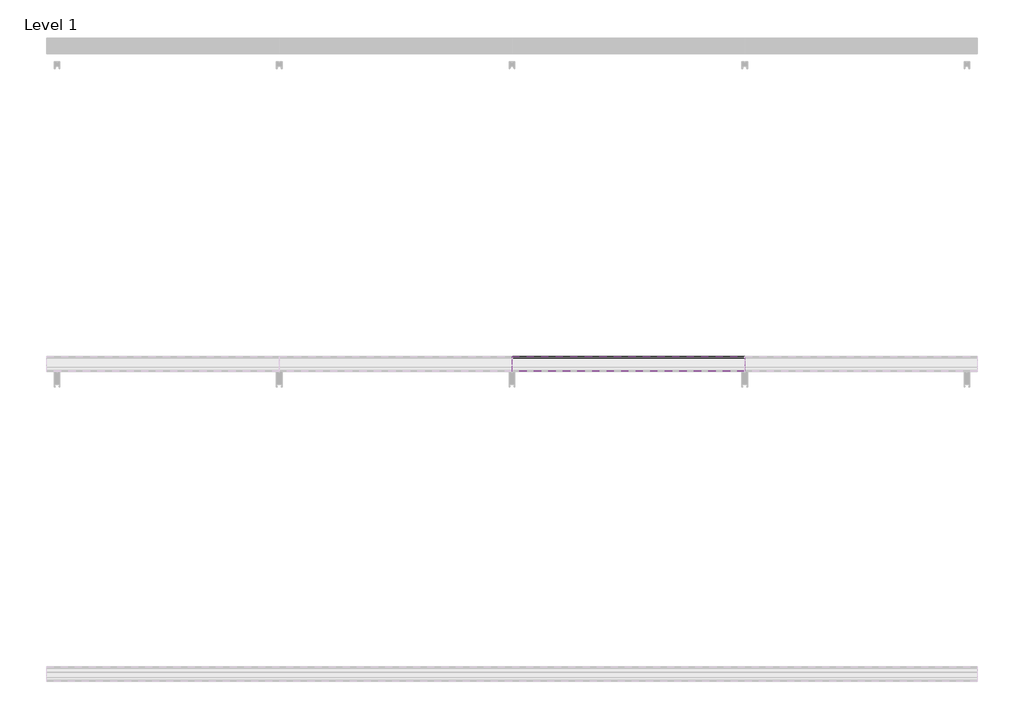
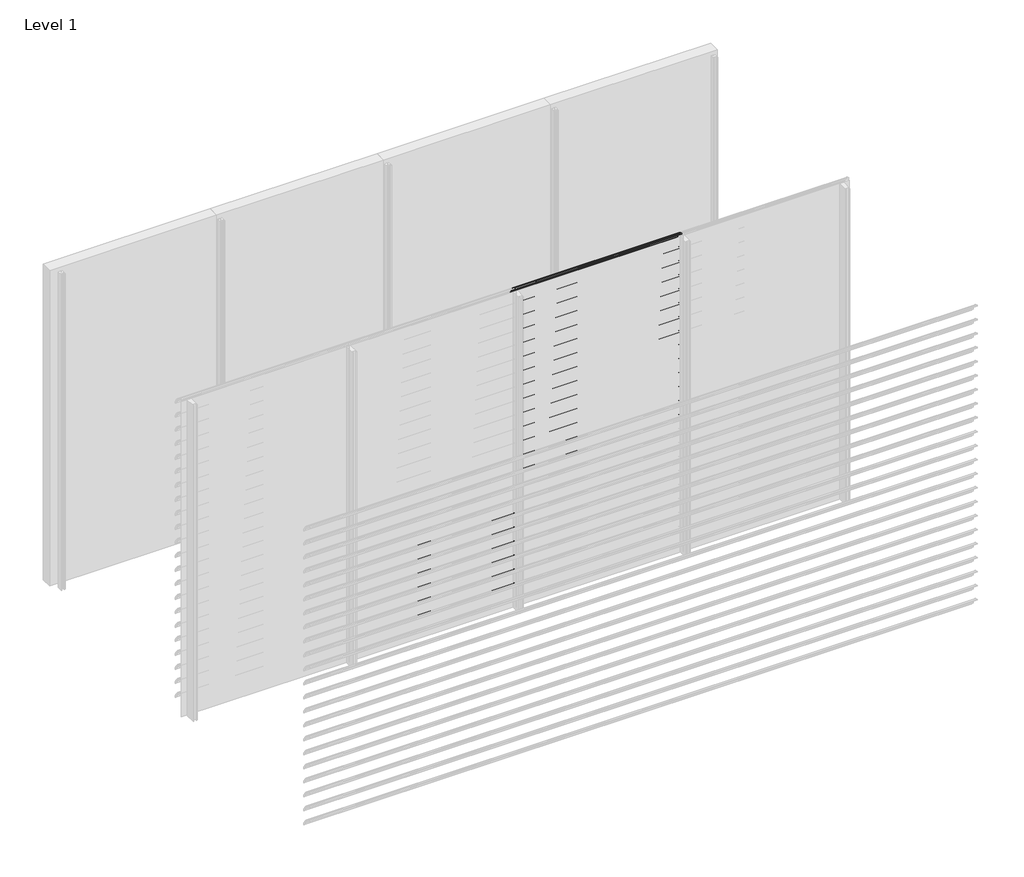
# One storey, part 39 of 57: 20 proxies.
"""IFC4 building model written with IfcOpenShell, lengths in millimetres."""

from ifc_helpers import new_model, si_unit, point, frame, frame_2d, origin, place, context, project, spatial, polyline, circle_curve, trimmed, segment, composite_curve, outline, extrude, element, save

model = new_model("IFC4")

# Units and contexts
model_context = context("Model", 3, world=origin())
ifc_project = project(units=[si_unit("LENGTHUNIT", "METRE", prefix="MILLI")], contexts=[model_context])

# Site, building, storey
site = spatial("IfcSite", under=ifc_project)
building = spatial("IfcBuilding", under=site)
storey = spatial("IfcBuildingStorey", under=building, Name="Level 1", Elevation=0.0)

# Proxies
placement = place(None, origin())
element("IfcBuildingElementProxy", 1, Name="Wall Sweeps", at=placement, inside=storey, context=model_context, shape_type="SweptSolid", body=[
    extrude(outline(composite_curve([segment(trimmed(circle_curve(frame_2d((-17993.7822526, 888.4913792)), 4.2177474), [point((-17989.6985606, 889.5462976))], [point((-17993.7822526, 892.7091266))], False, "CARTESIAN"), True, "CONTINUOUS"), segment(trimmed(circle_curve(frame_2d((-18018.7150834, 790.2536312)), 105.4456002), [point((-17993.7822526, 892.7091266))], [point((-17971.7914298, 884.6832099))], False, "CARTESIAN"), True, "CONTINUOUS"), segment(trimmed(circle_curve(frame_2d((-18061.7199745, 736.0352476)), 173.7335887), [point((-17971.7914298, 884.6832099))], [point((-17913.0720121, 825.9637922))], False, "CARTESIAN"), True, "CONTINUOUS"), segment(trimmed(circle_curve(frame_2d((-18004.9297178, 774.1860314)), 105.4456002), [point((-17913.0720121, 825.9637922))], [point((-17903.6249616, 803.4455765))], False, "CARTESIAN"), True, "CONTINUOUS"), segment(trimmed(circle_curve(frame_2d((-17907.809737, 802.3307305)), 4.3307305), [point((-17903.6249616, 803.4455765))], [point((-17909.0769196, 798.189538))], False, "CARTESIAN"), True, "CONTINUOUS"), segment(polyline([(-17909.0769196, 798.189538), (-17934.7401984, 822.9722783)]), True, "CONTINUOUS"), segment(trimmed(circle_curve(frame_2d((-17931.3879574, 825.2977626)), 4.079877), [point((-17934.7401984, 822.9722783))], [point((-17930.7310597, 829.3244091))], False, "CARTESIAN"), True, "CONTINUOUS"), segment(trimmed(circle_curve(frame_2d((-18014.6665585, 807.2544323)), 86.7885467), [point((-17930.7310597, 829.3244091))], [point((-17942.3028351, 855.1683485))], True, "CARTESIAN"), True, "CONTINUOUS"), segment(polyline([(-17942.3028351, 855.1683485), (-17940.7230099, 857.9046861)]), True, "CONTINUOUS"), segment(trimmed(circle_curve(frame_2d((-18061.7199745, 736.0352476)), 171.7335887), [point((-17940.7230099, 857.9046861))], [point((-17972.7555872, 882.9289618))], True, "CARTESIAN"), True, "CONTINUOUS"), segment(trimmed(circle_curve(frame_2d((-18018.7150834, 790.2536312)), 103.4456002), [point((-17972.7555872, 882.9289618))], [point((-17989.6985606, 889.5462976))], True, "CARTESIAN"), True, "CONTINUOUS")], self_intersect=False)), frame((1500.0, 0.0, 0.0), z_axis=(1.0, 0.0, 0.0), x_axis=(0.0, 1.0, 0.0)), (0.0, 0.0, 1.0), 1500.0),
])
element("IfcBuildingElementProxy", 2, Name="Wall Sweeps", at=placement, inside=storey, context=model_context, shape_type="SweptSolid", body=[
    extrude(outline(composite_curve([segment(trimmed(circle_curve(frame_2d((-17993.7822526, 755.4913792)), 4.2177474), [point((-17989.6985606, 756.5462976))], [point((-17993.7822526, 759.7091266))], False, "CARTESIAN"), True, "CONTINUOUS"), segment(trimmed(circle_curve(frame_2d((-18018.7150834, 657.2536312)), 105.4456002), [point((-17993.7822526, 759.7091266))], [point((-17971.7914298, 751.6832099))], False, "CARTESIAN"), True, "CONTINUOUS"), segment(trimmed(circle_curve(frame_2d((-18061.7199745, 603.0352476)), 173.7335887), [point((-17971.7914298, 751.6832099))], [point((-17913.0720121, 692.9637922))], False, "CARTESIAN"), True, "CONTINUOUS"), segment(trimmed(circle_curve(frame_2d((-18004.9297178, 641.1860314)), 105.4456002), [point((-17913.0720121, 692.9637922))], [point((-17903.6249616, 670.4455765))], False, "CARTESIAN"), True, "CONTINUOUS"), segment(trimmed(circle_curve(frame_2d((-17907.809737, 669.3307305)), 4.3307305), [point((-17903.6249616, 670.4455765))], [point((-17909.0769196, 665.189538))], False, "CARTESIAN"), True, "CONTINUOUS"), segment(polyline([(-17909.0769196, 665.189538), (-17934.7401984, 689.9722783)]), True, "CONTINUOUS"), segment(trimmed(circle_curve(frame_2d((-17931.3879574, 692.2977626)), 4.079877), [point((-17934.7401984, 689.9722783))], [point((-17930.7310597, 696.3244091))], False, "CARTESIAN"), True, "CONTINUOUS"), segment(trimmed(circle_curve(frame_2d((-18014.6665585, 674.2544323)), 86.7885467), [point((-17930.7310597, 696.3244091))], [point((-17942.3028351, 722.1683485))], True, "CARTESIAN"), True, "CONTINUOUS"), segment(polyline([(-17942.3028351, 722.1683485), (-17940.7230099, 724.9046861)]), True, "CONTINUOUS"), segment(trimmed(circle_curve(frame_2d((-18061.7199745, 603.0352476)), 171.7335887), [point((-17940.7230099, 724.9046861))], [point((-17972.7555872, 749.9289618))], True, "CARTESIAN"), True, "CONTINUOUS"), segment(trimmed(circle_curve(frame_2d((-18018.7150834, 657.2536312)), 103.4456002), [point((-17972.7555872, 749.9289618))], [point((-17989.6985606, 756.5462976))], True, "CARTESIAN"), True, "CONTINUOUS")], self_intersect=False)), frame((1500.0, 0.0, 0.0), z_axis=(1.0, 0.0, 0.0), x_axis=(0.0, 1.0, 0.0)), (0.0, 0.0, 1.0), 1500.0),
])
element("IfcBuildingElementProxy", 3, Name="Wall Sweeps", at=placement, inside=storey, context=model_context, shape_type="SweptSolid", body=[
    extrude(outline(composite_curve([segment(trimmed(circle_curve(frame_2d((-17993.7822526, 622.4913792)), 4.2177474), [point((-17989.6985606, 623.5462976))], [point((-17993.7822526, 626.7091266))], False, "CARTESIAN"), True, "CONTINUOUS"), segment(trimmed(circle_curve(frame_2d((-18018.7150834, 524.2536312)), 105.4456002), [point((-17993.7822526, 626.7091266))], [point((-17971.7914298, 618.6832099))], False, "CARTESIAN"), True, "CONTINUOUS"), segment(trimmed(circle_curve(frame_2d((-18061.7199745, 470.0352476)), 173.7335887), [point((-17971.7914298, 618.6832099))], [point((-17913.0720121, 559.9637922))], False, "CARTESIAN"), True, "CONTINUOUS"), segment(trimmed(circle_curve(frame_2d((-18004.9297178, 508.1860314)), 105.4456002), [point((-17913.0720121, 559.9637922))], [point((-17903.6249616, 537.4455765))], False, "CARTESIAN"), True, "CONTINUOUS"), segment(trimmed(circle_curve(frame_2d((-17907.809737, 536.3307305)), 4.3307305), [point((-17903.6249616, 537.4455765))], [point((-17909.0769196, 532.189538))], False, "CARTESIAN"), True, "CONTINUOUS"), segment(polyline([(-17909.0769196, 532.189538), (-17934.7401984, 556.9722783)]), True, "CONTINUOUS"), segment(trimmed(circle_curve(frame_2d((-17931.3879574, 559.2977626)), 4.079877), [point((-17934.7401984, 556.9722783))], [point((-17930.7310597, 563.3244091))], False, "CARTESIAN"), True, "CONTINUOUS"), segment(trimmed(circle_curve(frame_2d((-18014.6665585, 541.2544323)), 86.7885467), [point((-17930.7310597, 563.3244091))], [point((-17942.3028351, 589.1683485))], True, "CARTESIAN"), True, "CONTINUOUS"), segment(polyline([(-17942.3028351, 589.1683485), (-17940.7230099, 591.9046861)]), True, "CONTINUOUS"), segment(trimmed(circle_curve(frame_2d((-18061.7199745, 470.0352476)), 171.7335887), [point((-17940.7230099, 591.9046861))], [point((-17972.7555872, 616.9289618))], True, "CARTESIAN"), True, "CONTINUOUS"), segment(trimmed(circle_curve(frame_2d((-18018.7150834, 524.2536312)), 103.4456002), [point((-17972.7555872, 616.9289618))], [point((-17989.6985606, 623.5462976))], True, "CARTESIAN"), True, "CONTINUOUS")], self_intersect=False)), frame((1500.0, 0.0, 0.0), z_axis=(1.0, 0.0, 0.0), x_axis=(0.0, 1.0, 0.0)), (0.0, 0.0, 1.0), 1500.0),
])
element("IfcBuildingElementProxy", 4, Name="Wall Sweeps", at=placement, inside=storey, context=model_context, shape_type="SweptSolid", body=[
    extrude(outline(composite_curve([segment(trimmed(circle_curve(frame_2d((-17993.7822526, 489.4913792)), 4.2177474), [point((-17989.6985606, 490.5462976))], [point((-17993.7822526, 493.7091266))], False, "CARTESIAN"), True, "CONTINUOUS"), segment(trimmed(circle_curve(frame_2d((-18018.7150834, 391.2536312)), 105.4456002), [point((-17993.7822526, 493.7091266))], [point((-17971.7914298, 485.6832099))], False, "CARTESIAN"), True, "CONTINUOUS"), segment(trimmed(circle_curve(frame_2d((-18061.7199745, 337.0352476)), 173.7335887), [point((-17971.7914298, 485.6832099))], [point((-17913.0720121, 426.9637922))], False, "CARTESIAN"), True, "CONTINUOUS"), segment(trimmed(circle_curve(frame_2d((-18004.9297178, 375.1860314)), 105.4456002), [point((-17913.0720121, 426.9637922))], [point((-17903.6249616, 404.4455765))], False, "CARTESIAN"), True, "CONTINUOUS"), segment(trimmed(circle_curve(frame_2d((-17907.809737, 403.3307305)), 4.3307305), [point((-17903.6249616, 404.4455765))], [point((-17909.0769196, 399.189538))], False, "CARTESIAN"), True, "CONTINUOUS"), segment(polyline([(-17909.0769196, 399.189538), (-17934.7401984, 423.9722783)]), True, "CONTINUOUS"), segment(trimmed(circle_curve(frame_2d((-17931.3879574, 426.2977626)), 4.079877), [point((-17934.7401984, 423.9722783))], [point((-17930.7310597, 430.3244091))], False, "CARTESIAN"), True, "CONTINUOUS"), segment(trimmed(circle_curve(frame_2d((-18014.6665585, 408.2544323)), 86.7885467), [point((-17930.7310597, 430.3244091))], [point((-17942.3028351, 456.1683485))], True, "CARTESIAN"), True, "CONTINUOUS"), segment(polyline([(-17942.3028351, 456.1683485), (-17940.7230099, 458.9046861)]), True, "CONTINUOUS"), segment(trimmed(circle_curve(frame_2d((-18061.7199745, 337.0352476)), 171.7335887), [point((-17940.7230099, 458.9046861))], [point((-17972.7555872, 483.9289618))], True, "CARTESIAN"), True, "CONTINUOUS"), segment(trimmed(circle_curve(frame_2d((-18018.7150834, 391.2536312)), 103.4456002), [point((-17972.7555872, 483.9289618))], [point((-17989.6985606, 490.5462976))], True, "CARTESIAN"), True, "CONTINUOUS")], self_intersect=False)), frame((1500.0, 0.0, 0.0), z_axis=(1.0, 0.0, 0.0), x_axis=(0.0, 1.0, 0.0)), (0.0, 0.0, 1.0), 1500.0),
])
element("IfcBuildingElementProxy", 5, Name="Wall Sweeps", at=placement, inside=storey, context=model_context, shape_type="SweptSolid", body=[
    extrude(outline(composite_curve([segment(trimmed(circle_curve(frame_2d((-17993.7822526, 356.4913792)), 4.2177474), [point((-17989.6985606, 357.5462976))], [point((-17993.7822526, 360.7091266))], False, "CARTESIAN"), True, "CONTINUOUS"), segment(trimmed(circle_curve(frame_2d((-18018.7150834, 258.2536312)), 105.4456002), [point((-17993.7822526, 360.7091266))], [point((-17971.7914298, 352.6832099))], False, "CARTESIAN"), True, "CONTINUOUS"), segment(trimmed(circle_curve(frame_2d((-18061.7199745, 204.0352476)), 173.7335887), [point((-17971.7914298, 352.6832099))], [point((-17913.0720121, 293.9637922))], False, "CARTESIAN"), True, "CONTINUOUS"), segment(trimmed(circle_curve(frame_2d((-18004.9297178, 242.1860314)), 105.4456002), [point((-17913.0720121, 293.9637922))], [point((-17903.6249616, 271.4455765))], False, "CARTESIAN"), True, "CONTINUOUS"), segment(trimmed(circle_curve(frame_2d((-17907.809737, 270.3307305)), 4.3307305), [point((-17903.6249616, 271.4455765))], [point((-17909.0769196, 266.189538))], False, "CARTESIAN"), True, "CONTINUOUS"), segment(polyline([(-17909.0769196, 266.189538), (-17934.7401984, 290.9722783)]), True, "CONTINUOUS"), segment(trimmed(circle_curve(frame_2d((-17931.3879574, 293.2977626)), 4.079877), [point((-17934.7401984, 290.9722783))], [point((-17930.7310597, 297.3244091))], False, "CARTESIAN"), True, "CONTINUOUS"), segment(trimmed(circle_curve(frame_2d((-18014.6665585, 275.2544323)), 86.7885467), [point((-17930.7310597, 297.3244091))], [point((-17942.3028351, 323.1683485))], True, "CARTESIAN"), True, "CONTINUOUS"), segment(polyline([(-17942.3028351, 323.1683485), (-17940.7230099, 325.9046861)]), True, "CONTINUOUS"), segment(trimmed(circle_curve(frame_2d((-18061.7199745, 204.0352476)), 171.7335887), [point((-17940.7230099, 325.9046861))], [point((-17972.7555872, 350.9289618))], True, "CARTESIAN"), True, "CONTINUOUS"), segment(trimmed(circle_curve(frame_2d((-18018.7150834, 258.2536312)), 103.4456002), [point((-17972.7555872, 350.9289618))], [point((-17989.6985606, 357.5462976))], True, "CARTESIAN"), True, "CONTINUOUS")], self_intersect=False)), frame((1500.0, 0.0, 0.0), z_axis=(1.0, 0.0, 0.0), x_axis=(0.0, 1.0, 0.0)), (0.0, 0.0, 1.0), 1500.0),
])
element("IfcBuildingElementProxy", 6, Name="Wall Sweeps", at=placement, inside=storey, context=model_context, shape_type="SweptSolid", body=[
    extrude(outline(composite_curve([segment(trimmed(circle_curve(frame_2d((-17993.7822526, 223.4913792)), 4.2177474), [point((-17989.6985606, 224.5462976))], [point((-17993.7822526, 227.7091266))], False, "CARTESIAN"), True, "CONTINUOUS"), segment(trimmed(circle_curve(frame_2d((-18018.7150834, 125.2536312)), 105.4456002), [point((-17993.7822526, 227.7091266))], [point((-17971.7914298, 219.6832099))], False, "CARTESIAN"), True, "CONTINUOUS"), segment(trimmed(circle_curve(frame_2d((-18061.7199745, 71.0352476)), 173.7335887), [point((-17971.7914298, 219.6832099))], [point((-17913.0720121, 160.9637922))], False, "CARTESIAN"), True, "CONTINUOUS"), segment(trimmed(circle_curve(frame_2d((-18004.9297178, 109.1860314)), 105.4456002), [point((-17913.0720121, 160.9637922))], [point((-17903.6249616, 138.4455765))], False, "CARTESIAN"), True, "CONTINUOUS"), segment(trimmed(circle_curve(frame_2d((-17907.809737, 137.3307305)), 4.3307305), [point((-17903.6249616, 138.4455765))], [point((-17909.0769196, 133.189538))], False, "CARTESIAN"), True, "CONTINUOUS"), segment(polyline([(-17909.0769196, 133.189538), (-17934.7401984, 157.9722783)]), True, "CONTINUOUS"), segment(trimmed(circle_curve(frame_2d((-17931.3879574, 160.2977626)), 4.079877), [point((-17934.7401984, 157.9722783))], [point((-17930.7310597, 164.3244091))], False, "CARTESIAN"), True, "CONTINUOUS"), segment(trimmed(circle_curve(frame_2d((-18014.6665585, 142.2544323)), 86.7885467), [point((-17930.7310597, 164.3244091))], [point((-17942.3028351, 190.1683485))], True, "CARTESIAN"), True, "CONTINUOUS"), segment(polyline([(-17942.3028351, 190.1683485), (-17940.7230099, 192.9046861)]), True, "CONTINUOUS"), segment(trimmed(circle_curve(frame_2d((-18061.7199745, 71.0352476)), 171.7335887), [point((-17940.7230099, 192.9046861))], [point((-17972.7555872, 217.9289618))], True, "CARTESIAN"), True, "CONTINUOUS"), segment(trimmed(circle_curve(frame_2d((-18018.7150834, 125.2536312)), 103.4456002), [point((-17972.7555872, 217.9289618))], [point((-17989.6985606, 224.5462976))], True, "CARTESIAN"), True, "CONTINUOUS")], self_intersect=False)), frame((1500.0, 0.0, 0.0), z_axis=(1.0, 0.0, 0.0), x_axis=(0.0, 1.0, 0.0)), (0.0, 0.0, 1.0), 1500.0),
])
element("IfcBuildingElementProxy", 7, Name="Wall Sweeps", at=placement, inside=storey, context=model_context, shape_type="SweptSolid", body=[
    extrude(outline(composite_curve([segment(trimmed(circle_curve(frame_2d((-17993.7822526, 3016.4913792)), 4.2177474), [point((-17989.6985606, 3017.5462976))], [point((-17993.7822526, 3020.7091266))], False, "CARTESIAN"), True, "CONTINUOUS"), segment(trimmed(circle_curve(frame_2d((-18018.7150834, 2918.2536312)), 105.4456002), [point((-17993.7822526, 3020.7091266))], [point((-17971.7914298, 3012.6832099))], False, "CARTESIAN"), True, "CONTINUOUS"), segment(trimmed(circle_curve(frame_2d((-18061.7199745, 2864.0352476)), 173.7335887), [point((-17971.7914298, 3012.6832099))], [point((-17913.0720121, 2953.9637922))], False, "CARTESIAN"), True, "CONTINUOUS"), segment(trimmed(circle_curve(frame_2d((-18004.9297178, 2902.1860314)), 105.4456002), [point((-17913.0720121, 2953.9637922))], [point((-17903.6249616, 2931.4455765))], False, "CARTESIAN"), True, "CONTINUOUS"), segment(trimmed(circle_curve(frame_2d((-17907.809737, 2930.3307305)), 4.3307305), [point((-17903.6249616, 2931.4455765))], [point((-17909.0769196, 2926.189538))], False, "CARTESIAN"), True, "CONTINUOUS"), segment(polyline([(-17909.0769196, 2926.189538), (-17934.7401984, 2950.9722783)]), True, "CONTINUOUS"), segment(trimmed(circle_curve(frame_2d((-17931.3879574, 2953.2977626)), 4.079877), [point((-17934.7401984, 2950.9722783))], [point((-17930.7310597, 2957.3244091))], False, "CARTESIAN"), True, "CONTINUOUS"), segment(trimmed(circle_curve(frame_2d((-18014.6665585, 2935.2544323)), 86.7885467), [point((-17930.7310597, 2957.3244091))], [point((-17942.3028351, 2983.1683485))], True, "CARTESIAN"), True, "CONTINUOUS"), segment(polyline([(-17942.3028351, 2983.1683485), (-17940.7230099, 2985.9046861)]), True, "CONTINUOUS"), segment(trimmed(circle_curve(frame_2d((-18061.7199745, 2864.0352476)), 171.7335887), [point((-17940.7230099, 2985.9046861))], [point((-17972.7555872, 3010.9289618))], True, "CARTESIAN"), True, "CONTINUOUS"), segment(trimmed(circle_curve(frame_2d((-18018.7150834, 2918.2536312)), 103.4456002), [point((-17972.7555872, 3010.9289618))], [point((-17989.6985606, 3017.5462976))], True, "CARTESIAN"), True, "CONTINUOUS")], self_intersect=False)), frame((3000.0, 0.0, 0.0), z_axis=(1.0, 0.0, 0.0), x_axis=(0.0, 1.0, 0.0)), (0.0, 0.0, 1.0), 1500.0),
])
element("IfcBuildingElementProxy", 8, Name="Wall Sweeps", at=placement, inside=storey, context=model_context, shape_type="SweptSolid", body=[
    extrude(outline(composite_curve([segment(trimmed(circle_curve(frame_2d((-17993.7822526, 2883.4913792)), 4.2177474), [point((-17989.6985606, 2884.5462976))], [point((-17993.7822526, 2887.7091266))], False, "CARTESIAN"), True, "CONTINUOUS"), segment(trimmed(circle_curve(frame_2d((-18018.7150834, 2785.2536312)), 105.4456002), [point((-17993.7822526, 2887.7091266))], [point((-17971.7914298, 2879.6832099))], False, "CARTESIAN"), True, "CONTINUOUS"), segment(trimmed(circle_curve(frame_2d((-18061.7199745, 2731.0352476)), 173.7335887), [point((-17971.7914298, 2879.6832099))], [point((-17913.0720121, 2820.9637922))], False, "CARTESIAN"), True, "CONTINUOUS"), segment(trimmed(circle_curve(frame_2d((-18004.9297178, 2769.1860314)), 105.4456002), [point((-17913.0720121, 2820.9637922))], [point((-17903.6249616, 2798.4455765))], False, "CARTESIAN"), True, "CONTINUOUS"), segment(trimmed(circle_curve(frame_2d((-17907.809737, 2797.3307305)), 4.3307305), [point((-17903.6249616, 2798.4455765))], [point((-17909.0769196, 2793.189538))], False, "CARTESIAN"), True, "CONTINUOUS"), segment(polyline([(-17909.0769196, 2793.189538), (-17934.7401984, 2817.9722783)]), True, "CONTINUOUS"), segment(trimmed(circle_curve(frame_2d((-17931.3879574, 2820.2977626)), 4.079877), [point((-17934.7401984, 2817.9722783))], [point((-17930.7310597, 2824.3244091))], False, "CARTESIAN"), True, "CONTINUOUS"), segment(trimmed(circle_curve(frame_2d((-18014.6665585, 2802.2544323)), 86.7885467), [point((-17930.7310597, 2824.3244091))], [point((-17942.3028351, 2850.1683485))], True, "CARTESIAN"), True, "CONTINUOUS"), segment(polyline([(-17942.3028351, 2850.1683485), (-17940.7230099, 2852.9046861)]), True, "CONTINUOUS"), segment(trimmed(circle_curve(frame_2d((-18061.7199745, 2731.0352476)), 171.7335887), [point((-17940.7230099, 2852.9046861))], [point((-17972.7555872, 2877.9289618))], True, "CARTESIAN"), True, "CONTINUOUS"), segment(trimmed(circle_curve(frame_2d((-18018.7150834, 2785.2536312)), 103.4456002), [point((-17972.7555872, 2877.9289618))], [point((-17989.6985606, 2884.5462976))], True, "CARTESIAN"), True, "CONTINUOUS")], self_intersect=False)), frame((3000.0, 0.0, 0.0), z_axis=(1.0, 0.0, 0.0), x_axis=(0.0, 1.0, 0.0)), (0.0, 0.0, 1.0), 1500.0),
])
element("IfcBuildingElementProxy", 9, Name="Wall Sweeps", at=placement, inside=storey, context=model_context, shape_type="SweptSolid", body=[
    extrude(outline(composite_curve([segment(trimmed(circle_curve(frame_2d((-17993.7822526, 2750.4913792)), 4.2177474), [point((-17989.6985606, 2751.5462976))], [point((-17993.7822526, 2754.7091266))], False, "CARTESIAN"), True, "CONTINUOUS"), segment(trimmed(circle_curve(frame_2d((-18018.7150834, 2652.2536312)), 105.4456002), [point((-17993.7822526, 2754.7091266))], [point((-17971.7914298, 2746.6832099))], False, "CARTESIAN"), True, "CONTINUOUS"), segment(trimmed(circle_curve(frame_2d((-18061.7199745, 2598.0352476)), 173.7335887), [point((-17971.7914298, 2746.6832099))], [point((-17913.0720121, 2687.9637922))], False, "CARTESIAN"), True, "CONTINUOUS"), segment(trimmed(circle_curve(frame_2d((-18004.9297178, 2636.1860314)), 105.4456002), [point((-17913.0720121, 2687.9637922))], [point((-17903.6249616, 2665.4455765))], False, "CARTESIAN"), True, "CONTINUOUS"), segment(trimmed(circle_curve(frame_2d((-17907.809737, 2664.3307305)), 4.3307305), [point((-17903.6249616, 2665.4455765))], [point((-17909.0769196, 2660.189538))], False, "CARTESIAN"), True, "CONTINUOUS"), segment(polyline([(-17909.0769196, 2660.189538), (-17934.7401984, 2684.9722783)]), True, "CONTINUOUS"), segment(trimmed(circle_curve(frame_2d((-17931.3879574, 2687.2977626)), 4.079877), [point((-17934.7401984, 2684.9722783))], [point((-17930.7310597, 2691.3244091))], False, "CARTESIAN"), True, "CONTINUOUS"), segment(trimmed(circle_curve(frame_2d((-18014.6665585, 2669.2544323)), 86.7885467), [point((-17930.7310597, 2691.3244091))], [point((-17942.3028351, 2717.1683485))], True, "CARTESIAN"), True, "CONTINUOUS"), segment(polyline([(-17942.3028351, 2717.1683485), (-17940.7230099, 2719.9046861)]), True, "CONTINUOUS"), segment(trimmed(circle_curve(frame_2d((-18061.7199745, 2598.0352476)), 171.7335887), [point((-17940.7230099, 2719.9046861))], [point((-17972.7555872, 2744.9289618))], True, "CARTESIAN"), True, "CONTINUOUS"), segment(trimmed(circle_curve(frame_2d((-18018.7150834, 2652.2536312)), 103.4456002), [point((-17972.7555872, 2744.9289618))], [point((-17989.6985606, 2751.5462976))], True, "CARTESIAN"), True, "CONTINUOUS")], self_intersect=False)), frame((3000.0, 0.0, 0.0), z_axis=(1.0, 0.0, 0.0), x_axis=(0.0, 1.0, 0.0)), (0.0, 0.0, 1.0), 1500.0),
])
element("IfcBuildingElementProxy", 10, Name="Wall Sweeps", at=placement, inside=storey, context=model_context, shape_type="SweptSolid", body=[
    extrude(outline(composite_curve([segment(trimmed(circle_curve(frame_2d((-17993.7822526, 2617.4913792)), 4.2177474), [point((-17989.6985606, 2618.5462976))], [point((-17993.7822526, 2621.7091266))], False, "CARTESIAN"), True, "CONTINUOUS"), segment(trimmed(circle_curve(frame_2d((-18018.7150834, 2519.2536312)), 105.4456002), [point((-17993.7822526, 2621.7091266))], [point((-17971.7914298, 2613.6832099))], False, "CARTESIAN"), True, "CONTINUOUS"), segment(trimmed(circle_curve(frame_2d((-18061.7199745, 2465.0352476)), 173.7335887), [point((-17971.7914298, 2613.6832099))], [point((-17913.0720121, 2554.9637922))], False, "CARTESIAN"), True, "CONTINUOUS"), segment(trimmed(circle_curve(frame_2d((-18004.9297178, 2503.1860314)), 105.4456002), [point((-17913.0720121, 2554.9637922))], [point((-17903.6249616, 2532.4455765))], False, "CARTESIAN"), True, "CONTINUOUS"), segment(trimmed(circle_curve(frame_2d((-17907.809737, 2531.3307305)), 4.3307305), [point((-17903.6249616, 2532.4455765))], [point((-17909.0769196, 2527.189538))], False, "CARTESIAN"), True, "CONTINUOUS"), segment(polyline([(-17909.0769196, 2527.189538), (-17934.7401984, 2551.9722783)]), True, "CONTINUOUS"), segment(trimmed(circle_curve(frame_2d((-17931.3879574, 2554.2977626)), 4.079877), [point((-17934.7401984, 2551.9722783))], [point((-17930.7310597, 2558.3244091))], False, "CARTESIAN"), True, "CONTINUOUS"), segment(trimmed(circle_curve(frame_2d((-18014.6665585, 2536.2544323)), 86.7885467), [point((-17930.7310597, 2558.3244091))], [point((-17942.3028351, 2584.1683485))], True, "CARTESIAN"), True, "CONTINUOUS"), segment(polyline([(-17942.3028351, 2584.1683485), (-17940.7230099, 2586.9046861)]), True, "CONTINUOUS"), segment(trimmed(circle_curve(frame_2d((-18061.7199745, 2465.0352476)), 171.7335887), [point((-17940.7230099, 2586.9046861))], [point((-17972.7555872, 2611.9289618))], True, "CARTESIAN"), True, "CONTINUOUS"), segment(trimmed(circle_curve(frame_2d((-18018.7150834, 2519.2536312)), 103.4456002), [point((-17972.7555872, 2611.9289618))], [point((-17989.6985606, 2618.5462976))], True, "CARTESIAN"), True, "CONTINUOUS")], self_intersect=False)), frame((3000.0, 0.0, 0.0), z_axis=(1.0, 0.0, 0.0), x_axis=(0.0, 1.0, 0.0)), (0.0, 0.0, 1.0), 1500.0),
])
element("IfcBuildingElementProxy", 11, Name="Wall Sweeps", at=placement, inside=storey, context=model_context, shape_type="SweptSolid", body=[
    extrude(outline(composite_curve([segment(trimmed(circle_curve(frame_2d((-17993.7822526, 2484.4913792)), 4.2177474), [point((-17989.6985606, 2485.5462976))], [point((-17993.7822526, 2488.7091266))], False, "CARTESIAN"), True, "CONTINUOUS"), segment(trimmed(circle_curve(frame_2d((-18018.7150834, 2386.2536312)), 105.4456002), [point((-17993.7822526, 2488.7091266))], [point((-17971.7914298, 2480.6832099))], False, "CARTESIAN"), True, "CONTINUOUS"), segment(trimmed(circle_curve(frame_2d((-18061.7199745, 2332.0352476)), 173.7335887), [point((-17971.7914298, 2480.6832099))], [point((-17913.0720121, 2421.9637922))], False, "CARTESIAN"), True, "CONTINUOUS"), segment(trimmed(circle_curve(frame_2d((-18004.9297178, 2370.1860314)), 105.4456002), [point((-17913.0720121, 2421.9637922))], [point((-17903.6249616, 2399.4455765))], False, "CARTESIAN"), True, "CONTINUOUS"), segment(trimmed(circle_curve(frame_2d((-17907.809737, 2398.3307305)), 4.3307305), [point((-17903.6249616, 2399.4455765))], [point((-17909.0769196, 2394.189538))], False, "CARTESIAN"), True, "CONTINUOUS"), segment(polyline([(-17909.0769196, 2394.189538), (-17934.7401984, 2418.9722783)]), True, "CONTINUOUS"), segment(trimmed(circle_curve(frame_2d((-17931.3879574, 2421.2977626)), 4.079877), [point((-17934.7401984, 2418.9722783))], [point((-17930.7310597, 2425.3244091))], False, "CARTESIAN"), True, "CONTINUOUS"), segment(trimmed(circle_curve(frame_2d((-18014.6665585, 2403.2544323)), 86.7885467), [point((-17930.7310597, 2425.3244091))], [point((-17942.3028351, 2451.1683485))], True, "CARTESIAN"), True, "CONTINUOUS"), segment(polyline([(-17942.3028351, 2451.1683485), (-17940.7230099, 2453.9046861)]), True, "CONTINUOUS"), segment(trimmed(circle_curve(frame_2d((-18061.7199745, 2332.0352476)), 171.7335887), [point((-17940.7230099, 2453.9046861))], [point((-17972.7555872, 2478.9289618))], True, "CARTESIAN"), True, "CONTINUOUS"), segment(trimmed(circle_curve(frame_2d((-18018.7150834, 2386.2536312)), 103.4456002), [point((-17972.7555872, 2478.9289618))], [point((-17989.6985606, 2485.5462976))], True, "CARTESIAN"), True, "CONTINUOUS")], self_intersect=False)), frame((3000.0, 0.0, 0.0), z_axis=(1.0, 0.0, 0.0), x_axis=(0.0, 1.0, 0.0)), (0.0, 0.0, 1.0), 1500.0),
])
element("IfcBuildingElementProxy", 12, Name="Wall Sweeps", at=placement, inside=storey, context=model_context, shape_type="SweptSolid", body=[
    extrude(outline(composite_curve([segment(trimmed(circle_curve(frame_2d((-17993.7822526, 2351.4913792)), 4.2177474), [point((-17989.6985606, 2352.5462976))], [point((-17993.7822526, 2355.7091266))], False, "CARTESIAN"), True, "CONTINUOUS"), segment(trimmed(circle_curve(frame_2d((-18018.7150834, 2253.2536312)), 105.4456002), [point((-17993.7822526, 2355.7091266))], [point((-17971.7914298, 2347.6832099))], False, "CARTESIAN"), True, "CONTINUOUS"), segment(trimmed(circle_curve(frame_2d((-18061.7199745, 2199.0352476)), 173.7335887), [point((-17971.7914298, 2347.6832099))], [point((-17913.0720121, 2288.9637922))], False, "CARTESIAN"), True, "CONTINUOUS"), segment(trimmed(circle_curve(frame_2d((-18004.9297178, 2237.1860314)), 105.4456002), [point((-17913.0720121, 2288.9637922))], [point((-17903.6249616, 2266.4455765))], False, "CARTESIAN"), True, "CONTINUOUS"), segment(trimmed(circle_curve(frame_2d((-17907.809737, 2265.3307305)), 4.3307305), [point((-17903.6249616, 2266.4455765))], [point((-17909.0769196, 2261.189538))], False, "CARTESIAN"), True, "CONTINUOUS"), segment(polyline([(-17909.0769196, 2261.189538), (-17934.7401984, 2285.9722783)]), True, "CONTINUOUS"), segment(trimmed(circle_curve(frame_2d((-17931.3879574, 2288.2977626)), 4.079877), [point((-17934.7401984, 2285.9722783))], [point((-17930.7310597, 2292.3244091))], False, "CARTESIAN"), True, "CONTINUOUS"), segment(trimmed(circle_curve(frame_2d((-18014.6665585, 2270.2544323)), 86.7885467), [point((-17930.7310597, 2292.3244091))], [point((-17942.3028351, 2318.1683485))], True, "CARTESIAN"), True, "CONTINUOUS"), segment(polyline([(-17942.3028351, 2318.1683485), (-17940.7230099, 2320.9046861)]), True, "CONTINUOUS"), segment(trimmed(circle_curve(frame_2d((-18061.7199745, 2199.0352476)), 171.7335887), [point((-17940.7230099, 2320.9046861))], [point((-17972.7555872, 2345.9289618))], True, "CARTESIAN"), True, "CONTINUOUS"), segment(trimmed(circle_curve(frame_2d((-18018.7150834, 2253.2536312)), 103.4456002), [point((-17972.7555872, 2345.9289618))], [point((-17989.6985606, 2352.5462976))], True, "CARTESIAN"), True, "CONTINUOUS")], self_intersect=False)), frame((3000.0, 0.0, 0.0), z_axis=(1.0, 0.0, 0.0), x_axis=(0.0, 1.0, 0.0)), (0.0, 0.0, 1.0), 1500.0),
])
element("IfcBuildingElementProxy", 13, Name="Wall Sweeps", at=placement, inside=storey, context=model_context, shape_type="SweptSolid", body=[
    extrude(outline(composite_curve([segment(trimmed(circle_curve(frame_2d((-17993.7822526, 2218.4913792)), 4.2177474), [point((-17989.6985606, 2219.5462976))], [point((-17993.7822526, 2222.7091266))], False, "CARTESIAN"), True, "CONTINUOUS"), segment(trimmed(circle_curve(frame_2d((-18018.7150834, 2120.2536312)), 105.4456002), [point((-17993.7822526, 2222.7091266))], [point((-17971.7914298, 2214.6832099))], False, "CARTESIAN"), True, "CONTINUOUS"), segment(trimmed(circle_curve(frame_2d((-18061.7199745, 2066.0352476)), 173.7335887), [point((-17971.7914298, 2214.6832099))], [point((-17913.0720121, 2155.9637922))], False, "CARTESIAN"), True, "CONTINUOUS"), segment(trimmed(circle_curve(frame_2d((-18004.9297178, 2104.1860314)), 105.4456002), [point((-17913.0720121, 2155.9637922))], [point((-17903.6249616, 2133.4455765))], False, "CARTESIAN"), True, "CONTINUOUS"), segment(trimmed(circle_curve(frame_2d((-17907.809737, 2132.3307305)), 4.3307305), [point((-17903.6249616, 2133.4455765))], [point((-17909.0769196, 2128.189538))], False, "CARTESIAN"), True, "CONTINUOUS"), segment(polyline([(-17909.0769196, 2128.189538), (-17934.7401984, 2152.9722783)]), True, "CONTINUOUS"), segment(trimmed(circle_curve(frame_2d((-17931.3879574, 2155.2977626)), 4.079877), [point((-17934.7401984, 2152.9722783))], [point((-17930.7310597, 2159.3244091))], False, "CARTESIAN"), True, "CONTINUOUS"), segment(trimmed(circle_curve(frame_2d((-18014.6665585, 2137.2544323)), 86.7885467), [point((-17930.7310597, 2159.3244091))], [point((-17942.3028351, 2185.1683485))], True, "CARTESIAN"), True, "CONTINUOUS"), segment(polyline([(-17942.3028351, 2185.1683485), (-17940.7230099, 2187.9046861)]), True, "CONTINUOUS"), segment(trimmed(circle_curve(frame_2d((-18061.7199745, 2066.0352476)), 171.7335887), [point((-17940.7230099, 2187.9046861))], [point((-17972.7555872, 2212.9289618))], True, "CARTESIAN"), True, "CONTINUOUS"), segment(trimmed(circle_curve(frame_2d((-18018.7150834, 2120.2536312)), 103.4456002), [point((-17972.7555872, 2212.9289618))], [point((-17989.6985606, 2219.5462976))], True, "CARTESIAN"), True, "CONTINUOUS")], self_intersect=False)), frame((3000.0, 0.0, 0.0), z_axis=(1.0, 0.0, 0.0), x_axis=(0.0, 1.0, 0.0)), (0.0, 0.0, 1.0), 1500.0),
])
element("IfcBuildingElementProxy", 14, Name="Wall Sweeps", at=placement, inside=storey, context=model_context, shape_type="SweptSolid", body=[
    extrude(outline(composite_curve([segment(trimmed(circle_curve(frame_2d((-17993.7822526, 2085.4913792)), 4.2177474), [point((-17989.6985606, 2086.5462976))], [point((-17993.7822526, 2089.7091266))], False, "CARTESIAN"), True, "CONTINUOUS"), segment(trimmed(circle_curve(frame_2d((-18018.7150834, 1987.2536312)), 105.4456002), [point((-17993.7822526, 2089.7091266))], [point((-17971.7914298, 2081.6832099))], False, "CARTESIAN"), True, "CONTINUOUS"), segment(trimmed(circle_curve(frame_2d((-18061.7199745, 1933.0352476)), 173.7335887), [point((-17971.7914298, 2081.6832099))], [point((-17913.0720121, 2022.9637922))], False, "CARTESIAN"), True, "CONTINUOUS"), segment(trimmed(circle_curve(frame_2d((-18004.9297178, 1971.1860314)), 105.4456002), [point((-17913.0720121, 2022.9637922))], [point((-17903.6249616, 2000.4455765))], False, "CARTESIAN"), True, "CONTINUOUS"), segment(trimmed(circle_curve(frame_2d((-17907.809737, 1999.3307305)), 4.3307305), [point((-17903.6249616, 2000.4455765))], [point((-17909.0769196, 1995.189538))], False, "CARTESIAN"), True, "CONTINUOUS"), segment(polyline([(-17909.0769196, 1995.189538), (-17934.7401984, 2019.9722783)]), True, "CONTINUOUS"), segment(trimmed(circle_curve(frame_2d((-17931.3879574, 2022.2977626)), 4.079877), [point((-17934.7401984, 2019.9722783))], [point((-17930.7310597, 2026.3244091))], False, "CARTESIAN"), True, "CONTINUOUS"), segment(trimmed(circle_curve(frame_2d((-18014.6665585, 2004.2544323)), 86.7885467), [point((-17930.7310597, 2026.3244091))], [point((-17942.3028351, 2052.1683485))], True, "CARTESIAN"), True, "CONTINUOUS"), segment(polyline([(-17942.3028351, 2052.1683485), (-17940.7230099, 2054.9046861)]), True, "CONTINUOUS"), segment(trimmed(circle_curve(frame_2d((-18061.7199745, 1933.0352476)), 171.7335887), [point((-17940.7230099, 2054.9046861))], [point((-17972.7555872, 2079.9289618))], True, "CARTESIAN"), True, "CONTINUOUS"), segment(trimmed(circle_curve(frame_2d((-18018.7150834, 1987.2536312)), 103.4456002), [point((-17972.7555872, 2079.9289618))], [point((-17989.6985606, 2086.5462976))], True, "CARTESIAN"), True, "CONTINUOUS")], self_intersect=False)), frame((3000.0, 0.0, 0.0), z_axis=(1.0, 0.0, 0.0), x_axis=(0.0, 1.0, 0.0)), (0.0, 0.0, 1.0), 1500.0),
])
element("IfcBuildingElementProxy", 15, Name="Wall Sweeps", at=placement, inside=storey, context=model_context, shape_type="SweptSolid", body=[
    extrude(outline(composite_curve([segment(trimmed(circle_curve(frame_2d((-17993.7822526, 1952.4913792)), 4.2177474), [point((-17989.6985606, 1953.5462976))], [point((-17993.7822526, 1956.7091266))], False, "CARTESIAN"), True, "CONTINUOUS"), segment(trimmed(circle_curve(frame_2d((-18018.7150834, 1854.2536312)), 105.4456002), [point((-17993.7822526, 1956.7091266))], [point((-17971.7914298, 1948.6832099))], False, "CARTESIAN"), True, "CONTINUOUS"), segment(trimmed(circle_curve(frame_2d((-18061.7199745, 1800.0352476)), 173.7335887), [point((-17971.7914298, 1948.6832099))], [point((-17913.0720121, 1889.9637922))], False, "CARTESIAN"), True, "CONTINUOUS"), segment(trimmed(circle_curve(frame_2d((-18004.9297178, 1838.1860314)), 105.4456002), [point((-17913.0720121, 1889.9637922))], [point((-17903.6249616, 1867.4455765))], False, "CARTESIAN"), True, "CONTINUOUS"), segment(trimmed(circle_curve(frame_2d((-17907.809737, 1866.3307305)), 4.3307305), [point((-17903.6249616, 1867.4455765))], [point((-17909.0769196, 1862.189538))], False, "CARTESIAN"), True, "CONTINUOUS"), segment(polyline([(-17909.0769196, 1862.189538), (-17934.7401984, 1886.9722783)]), True, "CONTINUOUS"), segment(trimmed(circle_curve(frame_2d((-17931.3879574, 1889.2977626)), 4.079877), [point((-17934.7401984, 1886.9722783))], [point((-17930.7310597, 1893.3244091))], False, "CARTESIAN"), True, "CONTINUOUS"), segment(trimmed(circle_curve(frame_2d((-18014.6665585, 1871.2544323)), 86.7885467), [point((-17930.7310597, 1893.3244091))], [point((-17942.3028351, 1919.1683485))], True, "CARTESIAN"), True, "CONTINUOUS"), segment(polyline([(-17942.3028351, 1919.1683485), (-17940.7230099, 1921.9046861)]), True, "CONTINUOUS"), segment(trimmed(circle_curve(frame_2d((-18061.7199745, 1800.0352476)), 171.7335887), [point((-17940.7230099, 1921.9046861))], [point((-17972.7555872, 1946.9289618))], True, "CARTESIAN"), True, "CONTINUOUS"), segment(trimmed(circle_curve(frame_2d((-18018.7150834, 1854.2536312)), 103.4456002), [point((-17972.7555872, 1946.9289618))], [point((-17989.6985606, 1953.5462976))], True, "CARTESIAN"), True, "CONTINUOUS")], self_intersect=False)), frame((3000.0, 0.0, 0.0), z_axis=(1.0, 0.0, 0.0), x_axis=(0.0, 1.0, 0.0)), (0.0, 0.0, 1.0), 1500.0),
])
element("IfcBuildingElementProxy", 16, Name="Wall Sweeps", at=placement, inside=storey, context=model_context, shape_type="SweptSolid", body=[
    extrude(outline(composite_curve([segment(trimmed(circle_curve(frame_2d((-17993.7822526, 1819.4913792)), 4.2177474), [point((-17989.6985606, 1820.5462976))], [point((-17993.7822526, 1823.7091266))], False, "CARTESIAN"), True, "CONTINUOUS"), segment(trimmed(circle_curve(frame_2d((-18018.7150834, 1721.2536312)), 105.4456002), [point((-17993.7822526, 1823.7091266))], [point((-17971.7914298, 1815.6832099))], False, "CARTESIAN"), True, "CONTINUOUS"), segment(trimmed(circle_curve(frame_2d((-18061.7199745, 1667.0352476)), 173.7335887), [point((-17971.7914298, 1815.6832099))], [point((-17913.0720121, 1756.9637922))], False, "CARTESIAN"), True, "CONTINUOUS"), segment(trimmed(circle_curve(frame_2d((-18004.9297178, 1705.1860314)), 105.4456002), [point((-17913.0720121, 1756.9637922))], [point((-17903.6249616, 1734.4455765))], False, "CARTESIAN"), True, "CONTINUOUS"), segment(trimmed(circle_curve(frame_2d((-17907.809737, 1733.3307305)), 4.3307305), [point((-17903.6249616, 1734.4455765))], [point((-17909.0769196, 1729.189538))], False, "CARTESIAN"), True, "CONTINUOUS"), segment(polyline([(-17909.0769196, 1729.189538), (-17934.7401984, 1753.9722783)]), True, "CONTINUOUS"), segment(trimmed(circle_curve(frame_2d((-17931.3879574, 1756.2977626)), 4.079877), [point((-17934.7401984, 1753.9722783))], [point((-17930.7310597, 1760.3244091))], False, "CARTESIAN"), True, "CONTINUOUS"), segment(trimmed(circle_curve(frame_2d((-18014.6665585, 1738.2544323)), 86.7885467), [point((-17930.7310597, 1760.3244091))], [point((-17942.3028351, 1786.1683485))], True, "CARTESIAN"), True, "CONTINUOUS"), segment(polyline([(-17942.3028351, 1786.1683485), (-17940.7230099, 1788.9046861)]), True, "CONTINUOUS"), segment(trimmed(circle_curve(frame_2d((-18061.7199745, 1667.0352476)), 171.7335887), [point((-17940.7230099, 1788.9046861))], [point((-17972.7555872, 1813.9289618))], True, "CARTESIAN"), True, "CONTINUOUS"), segment(trimmed(circle_curve(frame_2d((-18018.7150834, 1721.2536312)), 103.4456002), [point((-17972.7555872, 1813.9289618))], [point((-17989.6985606, 1820.5462976))], True, "CARTESIAN"), True, "CONTINUOUS")], self_intersect=False)), frame((3000.0, 0.0, 0.0), z_axis=(1.0, 0.0, 0.0), x_axis=(0.0, 1.0, 0.0)), (0.0, 0.0, 1.0), 1500.0),
])
element("IfcBuildingElementProxy", 17, Name="Wall Sweeps", at=placement, inside=storey, context=model_context, shape_type="SweptSolid", body=[
    extrude(outline(composite_curve([segment(trimmed(circle_curve(frame_2d((-17993.7822526, 1686.4913792)), 4.2177474), [point((-17989.6985606, 1687.5462976))], [point((-17993.7822526, 1690.7091266))], False, "CARTESIAN"), True, "CONTINUOUS"), segment(trimmed(circle_curve(frame_2d((-18018.7150834, 1588.2536312)), 105.4456002), [point((-17993.7822526, 1690.7091266))], [point((-17971.7914298, 1682.6832099))], False, "CARTESIAN"), True, "CONTINUOUS"), segment(trimmed(circle_curve(frame_2d((-18061.7199745, 1534.0352476)), 173.7335887), [point((-17971.7914298, 1682.6832099))], [point((-17913.0720121, 1623.9637922))], False, "CARTESIAN"), True, "CONTINUOUS"), segment(trimmed(circle_curve(frame_2d((-18004.9297178, 1572.1860314)), 105.4456002), [point((-17913.0720121, 1623.9637922))], [point((-17903.6249616, 1601.4455765))], False, "CARTESIAN"), True, "CONTINUOUS"), segment(trimmed(circle_curve(frame_2d((-17907.809737, 1600.3307305)), 4.3307305), [point((-17903.6249616, 1601.4455765))], [point((-17909.0769196, 1596.189538))], False, "CARTESIAN"), True, "CONTINUOUS"), segment(polyline([(-17909.0769196, 1596.189538), (-17934.7401984, 1620.9722783)]), True, "CONTINUOUS"), segment(trimmed(circle_curve(frame_2d((-17931.3879574, 1623.2977626)), 4.079877), [point((-17934.7401984, 1620.9722783))], [point((-17930.7310597, 1627.3244091))], False, "CARTESIAN"), True, "CONTINUOUS"), segment(trimmed(circle_curve(frame_2d((-18014.6665585, 1605.2544323)), 86.7885467), [point((-17930.7310597, 1627.3244091))], [point((-17942.3028351, 1653.1683485))], True, "CARTESIAN"), True, "CONTINUOUS"), segment(polyline([(-17942.3028351, 1653.1683485), (-17940.7230099, 1655.9046861)]), True, "CONTINUOUS"), segment(trimmed(circle_curve(frame_2d((-18061.7199745, 1534.0352476)), 171.7335887), [point((-17940.7230099, 1655.9046861))], [point((-17972.7555872, 1680.9289618))], True, "CARTESIAN"), True, "CONTINUOUS"), segment(trimmed(circle_curve(frame_2d((-18018.7150834, 1588.2536312)), 103.4456002), [point((-17972.7555872, 1680.9289618))], [point((-17989.6985606, 1687.5462976))], True, "CARTESIAN"), True, "CONTINUOUS")], self_intersect=False)), frame((3000.0, 0.0, 0.0), z_axis=(1.0, 0.0, 0.0), x_axis=(0.0, 1.0, 0.0)), (0.0, 0.0, 1.0), 1500.0),
])
element("IfcBuildingElementProxy", 18, Name="Wall Sweeps", at=placement, inside=storey, context=model_context, shape_type="SweptSolid", body=[
    extrude(outline(composite_curve([segment(trimmed(circle_curve(frame_2d((-17993.7822526, 1553.4913792)), 4.2177474), [point((-17989.6985606, 1554.5462976))], [point((-17993.7822526, 1557.7091266))], False, "CARTESIAN"), True, "CONTINUOUS"), segment(trimmed(circle_curve(frame_2d((-18018.7150834, 1455.2536312)), 105.4456002), [point((-17993.7822526, 1557.7091266))], [point((-17971.7914298, 1549.6832099))], False, "CARTESIAN"), True, "CONTINUOUS"), segment(trimmed(circle_curve(frame_2d((-18061.7199745, 1401.0352476)), 173.7335887), [point((-17971.7914298, 1549.6832099))], [point((-17913.0720121, 1490.9637922))], False, "CARTESIAN"), True, "CONTINUOUS"), segment(trimmed(circle_curve(frame_2d((-18004.9297178, 1439.1860314)), 105.4456002), [point((-17913.0720121, 1490.9637922))], [point((-17903.6249616, 1468.4455765))], False, "CARTESIAN"), True, "CONTINUOUS"), segment(trimmed(circle_curve(frame_2d((-17907.809737, 1467.3307305)), 4.3307305), [point((-17903.6249616, 1468.4455765))], [point((-17909.0769196, 1463.189538))], False, "CARTESIAN"), True, "CONTINUOUS"), segment(polyline([(-17909.0769196, 1463.189538), (-17934.7401984, 1487.9722783)]), True, "CONTINUOUS"), segment(trimmed(circle_curve(frame_2d((-17931.3879574, 1490.2977626)), 4.079877), [point((-17934.7401984, 1487.9722783))], [point((-17930.7310597, 1494.3244091))], False, "CARTESIAN"), True, "CONTINUOUS"), segment(trimmed(circle_curve(frame_2d((-18014.6665585, 1472.2544323)), 86.7885467), [point((-17930.7310597, 1494.3244091))], [point((-17942.3028351, 1520.1683485))], True, "CARTESIAN"), True, "CONTINUOUS"), segment(polyline([(-17942.3028351, 1520.1683485), (-17940.7230099, 1522.9046861)]), True, "CONTINUOUS"), segment(trimmed(circle_curve(frame_2d((-18061.7199745, 1401.0352476)), 171.7335887), [point((-17940.7230099, 1522.9046861))], [point((-17972.7555872, 1547.9289618))], True, "CARTESIAN"), True, "CONTINUOUS"), segment(trimmed(circle_curve(frame_2d((-18018.7150834, 1455.2536312)), 103.4456002), [point((-17972.7555872, 1547.9289618))], [point((-17989.6985606, 1554.5462976))], True, "CARTESIAN"), True, "CONTINUOUS")], self_intersect=False)), frame((3000.0, 0.0, 0.0), z_axis=(1.0, 0.0, 0.0), x_axis=(0.0, 1.0, 0.0)), (0.0, 0.0, 1.0), 1500.0),
])
element("IfcBuildingElementProxy", 19, Name="Wall Sweeps", at=placement, inside=storey, context=model_context, shape_type="SweptSolid", body=[
    extrude(outline(composite_curve([segment(trimmed(circle_curve(frame_2d((-17993.7822526, 1420.4913792)), 4.2177474), [point((-17989.6985606, 1421.5462976))], [point((-17993.7822526, 1424.7091266))], False, "CARTESIAN"), True, "CONTINUOUS"), segment(trimmed(circle_curve(frame_2d((-18018.7150834, 1322.2536312)), 105.4456002), [point((-17993.7822526, 1424.7091266))], [point((-17971.7914298, 1416.6832099))], False, "CARTESIAN"), True, "CONTINUOUS"), segment(trimmed(circle_curve(frame_2d((-18061.7199745, 1268.0352476)), 173.7335887), [point((-17971.7914298, 1416.6832099))], [point((-17913.0720121, 1357.9637922))], False, "CARTESIAN"), True, "CONTINUOUS"), segment(trimmed(circle_curve(frame_2d((-18004.9297178, 1306.1860314)), 105.4456002), [point((-17913.0720121, 1357.9637922))], [point((-17903.6249616, 1335.4455765))], False, "CARTESIAN"), True, "CONTINUOUS"), segment(trimmed(circle_curve(frame_2d((-17907.809737, 1334.3307305)), 4.3307305), [point((-17903.6249616, 1335.4455765))], [point((-17909.0769196, 1330.189538))], False, "CARTESIAN"), True, "CONTINUOUS"), segment(polyline([(-17909.0769196, 1330.189538), (-17934.7401984, 1354.9722783)]), True, "CONTINUOUS"), segment(trimmed(circle_curve(frame_2d((-17931.3879574, 1357.2977626)), 4.079877), [point((-17934.7401984, 1354.9722783))], [point((-17930.7310597, 1361.3244091))], False, "CARTESIAN"), True, "CONTINUOUS"), segment(trimmed(circle_curve(frame_2d((-18014.6665585, 1339.2544323)), 86.7885467), [point((-17930.7310597, 1361.3244091))], [point((-17942.3028351, 1387.1683485))], True, "CARTESIAN"), True, "CONTINUOUS"), segment(polyline([(-17942.3028351, 1387.1683485), (-17940.7230099, 1389.9046861)]), True, "CONTINUOUS"), segment(trimmed(circle_curve(frame_2d((-18061.7199745, 1268.0352476)), 171.7335887), [point((-17940.7230099, 1389.9046861))], [point((-17972.7555872, 1414.9289618))], True, "CARTESIAN"), True, "CONTINUOUS"), segment(trimmed(circle_curve(frame_2d((-18018.7150834, 1322.2536312)), 103.4456002), [point((-17972.7555872, 1414.9289618))], [point((-17989.6985606, 1421.5462976))], True, "CARTESIAN"), True, "CONTINUOUS")], self_intersect=False)), frame((3000.0, 0.0, 0.0), z_axis=(1.0, 0.0, 0.0), x_axis=(0.0, 1.0, 0.0)), (0.0, 0.0, 1.0), 1500.0),
])
element("IfcBuildingElementProxy", 20, Name="Wall Sweeps", at=placement, inside=storey, context=model_context, shape_type="SweptSolid", body=[
    extrude(outline(composite_curve([segment(trimmed(circle_curve(frame_2d((-17993.7822526, 1287.4913792)), 4.2177474), [point((-17989.6985606, 1288.5462976))], [point((-17993.7822526, 1291.7091266))], False, "CARTESIAN"), True, "CONTINUOUS"), segment(trimmed(circle_curve(frame_2d((-18018.7150834, 1189.2536312)), 105.4456002), [point((-17993.7822526, 1291.7091266))], [point((-17971.7914298, 1283.6832099))], False, "CARTESIAN"), True, "CONTINUOUS"), segment(trimmed(circle_curve(frame_2d((-18061.7199745, 1135.0352476)), 173.7335887), [point((-17971.7914298, 1283.6832099))], [point((-17913.0720121, 1224.9637922))], False, "CARTESIAN"), True, "CONTINUOUS"), segment(trimmed(circle_curve(frame_2d((-18004.9297178, 1173.1860314)), 105.4456002), [point((-17913.0720121, 1224.9637922))], [point((-17903.6249616, 1202.4455765))], False, "CARTESIAN"), True, "CONTINUOUS"), segment(trimmed(circle_curve(frame_2d((-17907.809737, 1201.3307305)), 4.3307305), [point((-17903.6249616, 1202.4455765))], [point((-17909.0769196, 1197.189538))], False, "CARTESIAN"), True, "CONTINUOUS"), segment(polyline([(-17909.0769196, 1197.189538), (-17934.7401984, 1221.9722783)]), True, "CONTINUOUS"), segment(trimmed(circle_curve(frame_2d((-17931.3879574, 1224.2977626)), 4.079877), [point((-17934.7401984, 1221.9722783))], [point((-17930.7310597, 1228.3244091))], False, "CARTESIAN"), True, "CONTINUOUS"), segment(trimmed(circle_curve(frame_2d((-18014.6665585, 1206.2544323)), 86.7885467), [point((-17930.7310597, 1228.3244091))], [point((-17942.3028351, 1254.1683485))], True, "CARTESIAN"), True, "CONTINUOUS"), segment(polyline([(-17942.3028351, 1254.1683485), (-17940.7230099, 1256.9046861)]), True, "CONTINUOUS"), segment(trimmed(circle_curve(frame_2d((-18061.7199745, 1135.0352476)), 171.7335887), [point((-17940.7230099, 1256.9046861))], [point((-17972.7555872, 1281.9289618))], True, "CARTESIAN"), True, "CONTINUOUS"), segment(trimmed(circle_curve(frame_2d((-18018.7150834, 1189.2536312)), 103.4456002), [point((-17972.7555872, 1281.9289618))], [point((-17989.6985606, 1288.5462976))], True, "CARTESIAN"), True, "CONTINUOUS")], self_intersect=False)), frame((3000.0, 0.0, 0.0), z_axis=(1.0, 0.0, 0.0), x_axis=(0.0, 1.0, 0.0)), (0.0, 0.0, 1.0), 1500.0),
])

save(model, "model.ifc")
